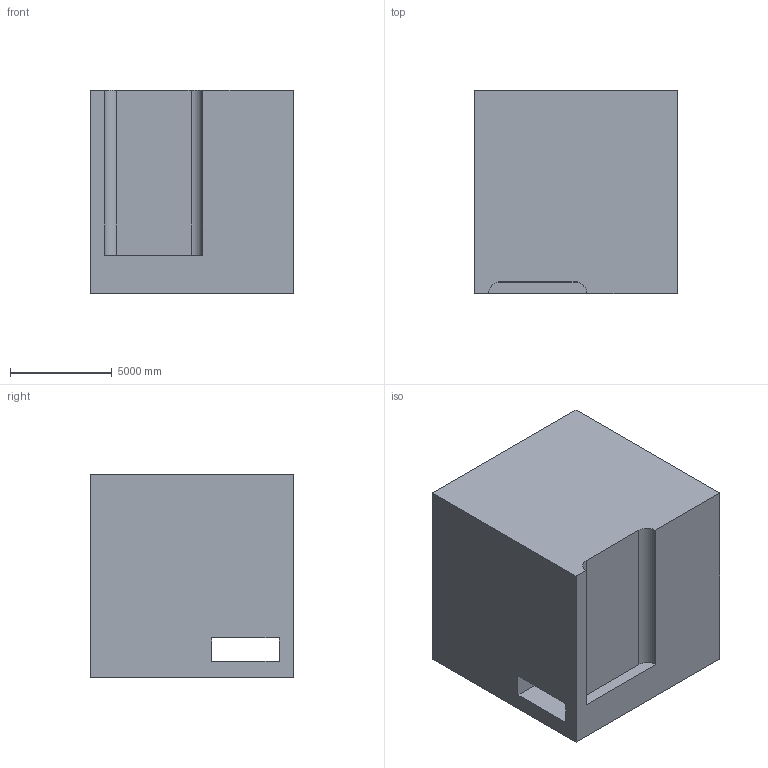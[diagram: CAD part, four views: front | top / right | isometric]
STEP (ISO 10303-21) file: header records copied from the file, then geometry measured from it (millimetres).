
FILE_DESCRIPTION (( 'STEP AP203' ), '1' );
FILE_NAME ('300.STEP', '2022-07-28T14:15:30', ( 'user' ), ( '' ), 'SwSTEP 2.0', 'SolidWorks 2021', '' );
FILE_SCHEMA (( 'CONFIG_CONTROL_DESIGN' ));
Length unit declared in the file: centimetre
Products named in the file (1): 300
Bounding box: 10000 x 10000 x 10000 mm (x, y, z)
Volume: 855845446032.7 mm3; surface area: 755502960.6 mm2
Topology: 1 solids, 1 shells, 25 faces, 72 edges, 48 vertices
Faces by surface type: plane 21, cylinder 4
Entity records: 899 total; most frequent: CARTESIAN_POINT 146, ORIENTED_EDGE 144, DIRECTION 132, EDGE_CURVE 72, LINE 64, VECTOR 64, VERTEX_POINT 48, AXIS2_PLACEMENT_3D 34
